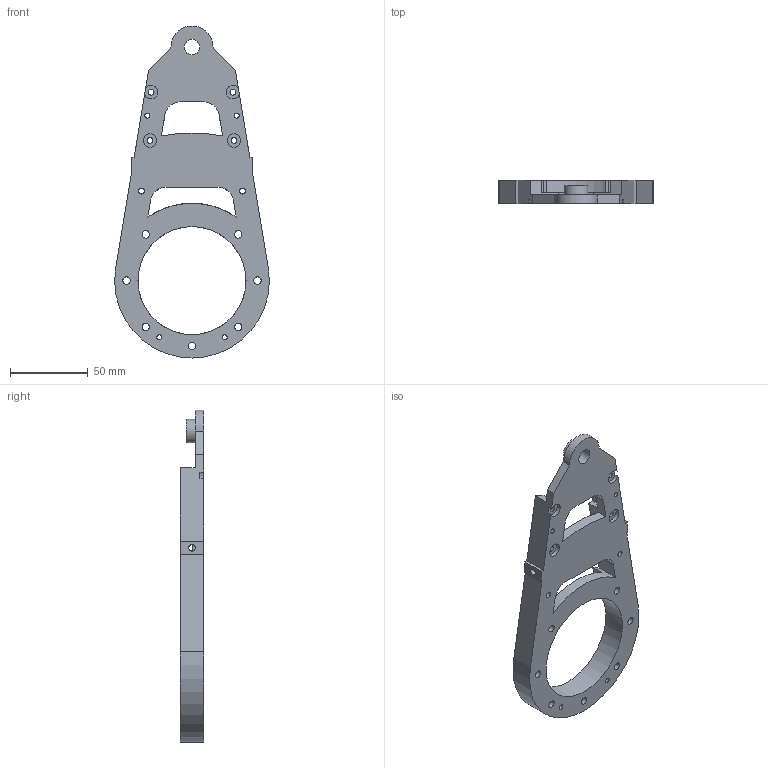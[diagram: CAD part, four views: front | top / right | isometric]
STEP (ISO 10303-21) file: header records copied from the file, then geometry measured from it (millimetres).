
FILE_DESCRIPTION(/* description */ (''),/* implementation_level */ '2;1');
FILE_NAME(/* name */ 'Motor Leg 4 (hip-knee) v1.step',/* time_stamp */ '2025-10-21T12:11:08-07:00',/* author */ (''),/* organization */ (''),/* preprocessor_version */ 'ST-DEVELOPER v20.1',/* originating_system */ 'Autodesk Translation Framework v14.17.0.0',/* authorisation */ '');
FILE_SCHEMA (('AUTOMOTIVE_DESIGN { 1 0 10303 214 3 1 1 }'));
Length unit declared in the file: inch
Products named in the file (1): Motor Leg 4 (hip-knee)
Bounding box: 99.35 x 15 x 213.18 mm (x, y, z)
Volume: 108269 mm3; surface area: 37941.5 mm2
Topology: 1 solids, 1 shells, 96 faces, 284 edges, 188 vertices
Faces by surface type: plane 59, cylinder 37
Full cylindrical faces by diameter (mm): 3.25 x4, 3.75 x6, 4.2 x2, 4.75 x7, 8.75 x2, 10.025 x1, 15.025 x1, 69.354 x1
Entity records: 3347 total; most frequent: CARTESIAN_POINT 569, ORIENTED_EDGE 568, DIRECTION 562, EDGE_CURVE 284, LINE 200, VECTOR 200, VERTEX_POINT 188, AXIS2_PLACEMENT_3D 181
